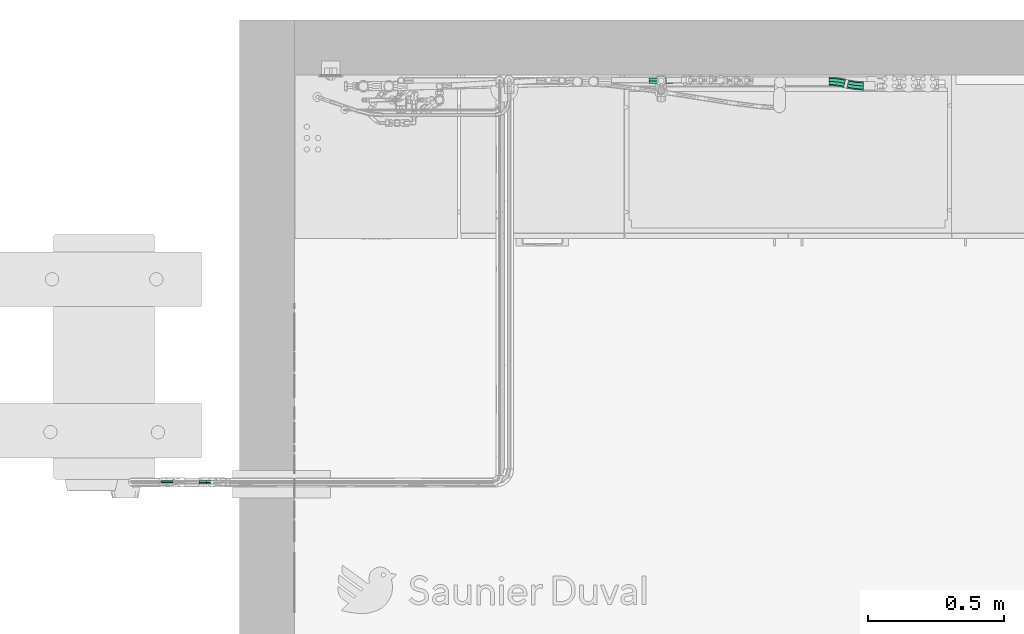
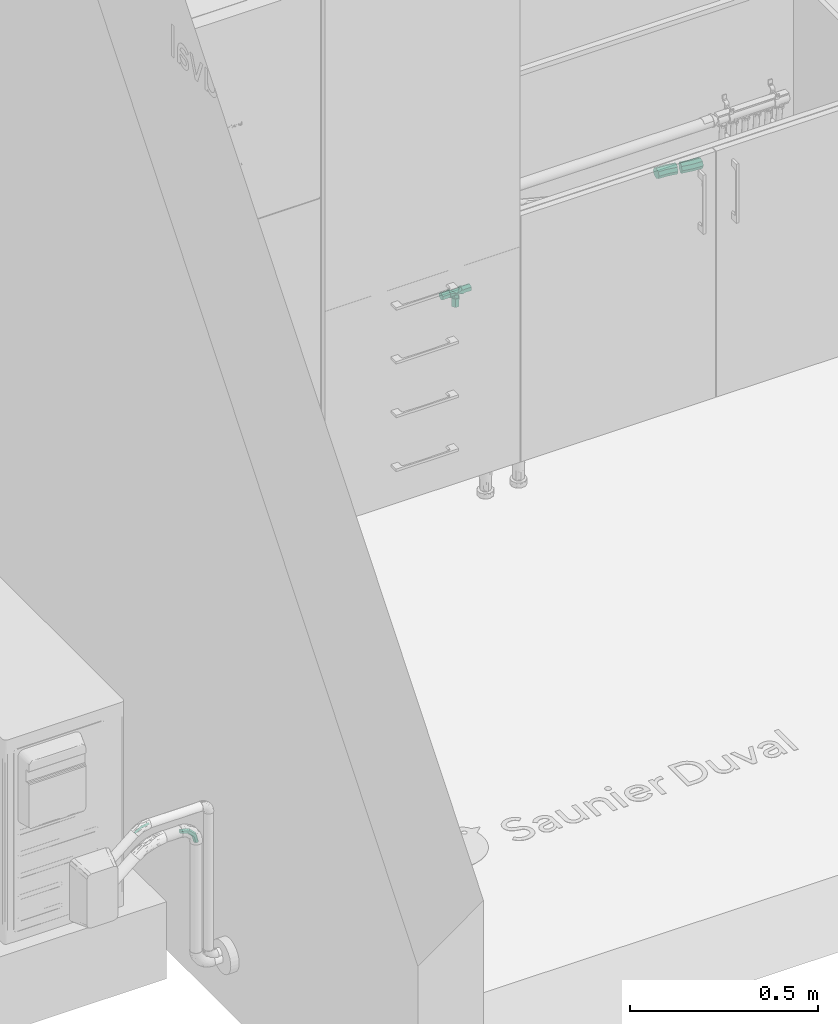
# One storey, part 26 of 30: 5 flow fittings.
"""IFC2X3 building model written with IfcOpenShell, lengths in metres."""

from ifc_helpers import new_model, entity, si_unit, converted_unit, derived_unit, direction, frame, origin, place, context, subcontext, project, spatial, faceted_brep, source, transform, mapped, material, material_list, type_object, type_shapes, element, save


model = new_model("IFC2X3")

# Units and contexts
model_context = context("Model", 3, precision=1e-05, world=origin(), true_north=direction((6.123031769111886e-17, 1.0)))
body_context = subcontext(model_context, "Body", "Model", "MODEL_VIEW")
ifc_project = project(units=[si_unit("LENGTHUNIT", "METRE"), si_unit("AREAUNIT", "SQUARE_METRE"), si_unit("VOLUMEUNIT", "CUBIC_METRE"), converted_unit("PLANEANGLEUNIT", "DEGREE", entity("IfcPlaneAngleMeasure", 0.017453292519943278), si_unit("PLANEANGLEUNIT", "RADIAN"), dimensions=[0, 0, 0, 0, 0, 0, 0]), si_unit("MASSUNIT", "GRAM", prefix="KILO"), derived_unit("MASSDENSITYUNIT", [(si_unit("MASSUNIT", "GRAM", prefix="KILO"), 1), (si_unit("LENGTHUNIT", "METRE"), -3)]), derived_unit("IONCONCENTRATIONUNIT", [(si_unit("MASSUNIT", "GRAM", prefix="KILO"), 1), (si_unit("LENGTHUNIT", "METRE"), -3)]), derived_unit("MOMENTOFINERTIAUNIT", [(si_unit("LENGTHUNIT", "METRE"), 4)]), si_unit("TIMEUNIT", "SECOND"), si_unit("FREQUENCYUNIT", "HERTZ"), si_unit("THERMODYNAMICTEMPERATUREUNIT", "DEGREE_CELSIUS"), derived_unit("THERMALTRANSMITTANCEUNIT", [(si_unit("MASSUNIT", "GRAM", prefix="KILO"), 1), (si_unit("THERMODYNAMICTEMPERATUREUNIT", "KELVIN"), -1), (si_unit("TIMEUNIT", "SECOND"), -3)]), derived_unit("THERMALCONDUCTANCEUNIT", [(si_unit("MASSUNIT", "GRAM", prefix="KILO"), 1), (si_unit("THERMODYNAMICTEMPERATUREUNIT", "KELVIN"), -1), (si_unit("TIMEUNIT", "SECOND"), -3), (si_unit("LENGTHUNIT", "METRE"), 1)]), derived_unit("VOLUMETRICFLOWRATEUNIT", [(si_unit("LENGTHUNIT", "METRE", prefix="DECI"), 3), (si_unit("TIMEUNIT", "SECOND"), -1)]), derived_unit("MASSFLOWRATEUNIT", [(si_unit("MASSUNIT", "GRAM", prefix="KILO"), 1), (si_unit("TIMEUNIT", "SECOND"), -1)]), derived_unit("ROTATIONALFREQUENCYUNIT", [(si_unit("TIMEUNIT", "SECOND"), -1)]), si_unit("ELECTRICCURRENTUNIT", "AMPERE"), si_unit("ELECTRICVOLTAGEUNIT", "VOLT"), si_unit("POWERUNIT", "WATT"), si_unit("FORCEUNIT", "NEWTON", prefix="KILO"), si_unit("ILLUMINANCEUNIT", "LUX"), si_unit("LUMINOUSFLUXUNIT", "LUMEN"), si_unit("LUMINOUSINTENSITYUNIT", "CANDELA"), si_unit("ENERGYUNIT", "JOULE"), derived_unit("USERDEFINED", [(si_unit("MASSUNIT", "GRAM", prefix="KILO"), -1), (si_unit("LENGTHUNIT", "METRE"), -2), (si_unit("TIMEUNIT", "SECOND"), 3), (si_unit("LUMINOUSFLUXUNIT", "LUMEN"), 1)]), derived_unit("USERDEFINED", [(si_unit("MASSUNIT", "GRAM", prefix="KILO"), 1), (si_unit("TIMEUNIT", "SECOND"), -3), (si_unit("LENGTHUNIT", "METRE"), 3), (si_unit("ELECTRICCURRENTUNIT", "AMPERE"), -2)]), derived_unit("SOUNDPOWERUNIT", [(si_unit("MASSUNIT", "GRAM", prefix="KILO"), 1), (si_unit("TIMEUNIT", "SECOND"), -3), (si_unit("LENGTHUNIT", "METRE"), 2)]), derived_unit("SOUNDPRESSUREUNIT", [(si_unit("MASSUNIT", "GRAM", prefix="KILO"), 1), (si_unit("LENGTHUNIT", "METRE"), -1), (si_unit("TIMEUNIT", "SECOND"), -2)]), derived_unit("LINEARVELOCITYUNIT", [(si_unit("LENGTHUNIT", "METRE"), 1), (si_unit("TIMEUNIT", "SECOND"), -1)]), si_unit("PRESSUREUNIT", "PASCAL"), derived_unit("USERDEFINED", [(si_unit("MASSUNIT", "GRAM", prefix="KILO"), 1), (si_unit("LENGTHUNIT", "METRE"), -2), (si_unit("TIMEUNIT", "SECOND"), -2)]), derived_unit("LINEARFORCEUNIT", [(si_unit("MASSUNIT", "GRAM", prefix="KILO"), 1), (si_unit("TIMEUNIT", "SECOND"), -2)]), derived_unit("PLANARFORCEUNIT", [(si_unit("MASSUNIT", "GRAM", prefix="KILO"), 1), (si_unit("LENGTHUNIT", "METRE"), -1), (si_unit("TIMEUNIT", "SECOND"), -2)]), derived_unit("SPECIFICHEATCAPACITYUNIT", [(si_unit("THERMODYNAMICTEMPERATUREUNIT", "KELVIN"), -1), (si_unit("LENGTHUNIT", "METRE"), 2), (si_unit("TIMEUNIT", "SECOND"), -2)]), derived_unit("HEATFLUXDENSITYUNIT", [(si_unit("MASSUNIT", "GRAM", prefix="KILO"), 1), (si_unit("TIMEUNIT", "SECOND"), -3)]), derived_unit("HEATINGVALUEUNIT", [(si_unit("LENGTHUNIT", "METRE"), 2), (si_unit("TIMEUNIT", "SECOND"), -2)]), derived_unit("VAPORPERMEABILITYUNIT", [(si_unit("LENGTHUNIT", "METRE"), -1), (si_unit("TIMEUNIT", "SECOND"), 1)]), derived_unit("DYNAMICVISCOSITYUNIT", [(si_unit("MASSUNIT", "GRAM", prefix="KILO"), 1), (si_unit("TIMEUNIT", "SECOND"), -1), (si_unit("LENGTHUNIT", "METRE"), -1)]), derived_unit("THERMALEXPANSIONCOEFFICIENTUNIT", [(si_unit("THERMODYNAMICTEMPERATUREUNIT", "KELVIN"), -1)]), derived_unit("MODULUSOFELASTICITYUNIT", [(si_unit("MASSUNIT", "GRAM", prefix="KILO"), 1), (si_unit("LENGTHUNIT", "METRE"), -1), (si_unit("TIMEUNIT", "SECOND"), -2)]), derived_unit("ISOTHERMALMOISTURECAPACITYUNIT", [(si_unit("MASSUNIT", "GRAM", prefix="KILO"), -1), (si_unit("LENGTHUNIT", "METRE"), 3)]), derived_unit("MOISTUREDIFFUSIVITYUNIT", [(si_unit("TIMEUNIT", "SECOND"), -1), (si_unit("LENGTHUNIT", "METRE"), 2)]), derived_unit("MASSPERLENGTHUNIT", [(si_unit("MASSUNIT", "GRAM", prefix="KILO"), 1), (si_unit("LENGTHUNIT", "METRE"), -1)]), derived_unit("THERMALRESISTANCEUNIT", [(si_unit("MASSUNIT", "GRAM", prefix="KILO"), -1), (si_unit("TIMEUNIT", "SECOND"), 3), (si_unit("THERMODYNAMICTEMPERATUREUNIT", "KELVIN"), 1)]), derived_unit("ACCELERATIONUNIT", [(si_unit("LENGTHUNIT", "METRE"), 1), (si_unit("TIMEUNIT", "SECOND"), -2)]), derived_unit("ANGULARVELOCITYUNIT", [(si_unit("TIMEUNIT", "SECOND"), -1), (si_unit("PLANEANGLEUNIT", "RADIAN"), 1)]), derived_unit("LINEARSTIFFNESSUNIT", [(si_unit("MASSUNIT", "GRAM", prefix="KILO"), 1), (si_unit("TIMEUNIT", "SECOND"), -2)]), derived_unit("WARPINGCONSTANTUNIT", [(si_unit("LENGTHUNIT", "METRE"), 6)]), derived_unit("LINEARMOMENTUNIT", [(si_unit("MASSUNIT", "GRAM", prefix="KILO"), 1), (si_unit("LENGTHUNIT", "METRE"), 1), (si_unit("TIMEUNIT", "SECOND"), -2)]), derived_unit("TORQUEUNIT", [(si_unit("MASSUNIT", "GRAM", prefix="KILO"), 1), (si_unit("LENGTHUNIT", "METRE"), 2), (si_unit("TIMEUNIT", "SECOND"), -2)])], contexts=[model_context])

# Site, building, storey
site_placement = place(None, origin())
site = spatial("IfcSite", under=ifc_project, at=site_placement, Name="Default", CompositionType="ELEMENT")
building_placement = place(site_placement, origin())
building = spatial("IfcBuilding", under=site, at=building_placement, CompositionType="ELEMENT")
storey_placement = place(building_placement, origin())
storey = spatial("IfcBuildingStorey", under=building, at=storey_placement, Name="Niveau 0", CompositionType="ELEMENT", Elevation=-1.949160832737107e-14)

# Flow fittings
ifc_material_1 = material(Name="Cuivre")
pipe_fitting_type_1 = type_object("IfcPipeFittingType", Name="Coude - tube frigo:Standard", PredefinedType="NOTDEFINED", material=ifc_material_1)
shared_shape_1 = source(origin(), body_context, "Body", "Brep", [
    faceted_brep([(-1.6923237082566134e-05, 4.6496211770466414e-05, 0.0), (-0.001453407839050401, 0.0039932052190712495, -0.004200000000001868), (0.01846167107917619, 0.015491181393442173, -0.004200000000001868), (0.02116137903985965, 0.012273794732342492, 0.0), (-0.0028898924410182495, 0.00793991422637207, 0.0), (0.0157619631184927, 0.018708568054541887, 0.0), (-0.0014534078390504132, 0.003993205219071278, 0.004199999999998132), (0.018461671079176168, 0.015491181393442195, 0.004199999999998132), (-0.0240999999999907, -0.004200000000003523, 0.0), (-0.024099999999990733, 0.0, -0.004200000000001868), (-0.024099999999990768, 0.0041999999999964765, 0.0), (-0.024099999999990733, 0.0, 0.004199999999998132)], [[[0, 1, 2, 3]], [[1, 4, 5, 2]], [[4, 6, 7, 5]], [[6, 0, 3, 7]], [[8, 9, 1, 0]], [[9, 10, 4, 1]], [[10, 11, 6, 4]], [[11, 8, 0, 6]], [[3, 2, 5, 7]], [[11, 10, 9, 8]]]),
])
type_shapes(pipe_fitting_type_1, [shared_shape_1])
flow_fitting_1_placement = place(storey_placement, frame((-21.084557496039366, 1.3770530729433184, 0.09334358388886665), z_axis=(0.0, 1.0, 0.0), x_axis=(0.7660444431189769, 0.0, 0.6427876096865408)))
element("IfcFlowFitting", 1, at=flow_fitting_1_placement, inside=storey, type_object=pipe_fitting_type_1, material=ifc_material_1, Name="Coude - tube frigo:Standard", ObjectType="Coude - tube frigo:Standard", context=body_context, shape_type="MappedRepresentation", body=[
    mapped(shared_shape_1, transform((0.0, 0.0, 0.0), scale=1.0)),
])
pipe_fitting_type_2 = type_object("IfcPipeFittingType", Name="Coude - tube frigo:Standard", PredefinedType="NOTDEFINED", material=ifc_material_1)
shared_shape_2 = source(origin(), body_context, "Body", "Brep", [
    faceted_brep([(-0.000247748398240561, 0.020977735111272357, 0.0), (-0.003430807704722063, 0.022814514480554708, -0.006365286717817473), (0.0036582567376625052, 0.049301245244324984, -0.006365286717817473), (0.007333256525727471, 0.04930249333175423, 0.0), (-0.00979692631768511, 0.026488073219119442, -0.006365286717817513), (-0.0036917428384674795, 0.0492987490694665, -0.006365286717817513), (-0.012979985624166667, 0.028324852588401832, 0.0), (-0.007366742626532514, 0.04929750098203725, 0.0), (-0.009796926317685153, 0.026488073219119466, 0.00636528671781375), (-0.0036917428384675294, 0.0492987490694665, 0.00636528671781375), (-0.0034308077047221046, 0.022814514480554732, 0.0063652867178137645), (0.003658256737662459, 0.049301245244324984, 0.0063652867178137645), (-0.02097781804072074, 0.00024062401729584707, 0.0), (-0.022815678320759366, 0.003423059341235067, -0.006365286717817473), (-0.026491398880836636, 0.009787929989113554, -0.006365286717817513), (-0.028329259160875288, 0.012970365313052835, 0.0), (-0.02649139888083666, 0.009787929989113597, 0.00636528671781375), (-0.022815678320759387, 0.003423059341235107, 0.0063652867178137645), (-0.04929999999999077, -0.007350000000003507, 0.0), (-0.0492999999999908, -0.0036750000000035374, -0.006365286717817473), (-0.049299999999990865, 0.0036749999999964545, -0.006365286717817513), (-0.04929999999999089, 0.007349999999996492, 0.0), (-0.049299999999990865, 0.0036749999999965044, 0.00636528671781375), (-0.0492999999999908, -0.0036750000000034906, 0.0063652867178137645)], [[[0, 1, 2, 3]], [[1, 4, 5, 2]], [[4, 6, 7, 5]], [[6, 8, 9, 7]], [[8, 10, 11, 9]], [[10, 0, 3, 11]], [[12, 13, 1, 0]], [[13, 14, 4, 1]], [[14, 15, 6, 4]], [[15, 16, 8, 6]], [[16, 17, 10, 8]], [[17, 12, 0, 10]], [[18, 19, 13, 12]], [[19, 20, 14, 13]], [[20, 21, 15, 14]], [[21, 22, 16, 15]], [[22, 23, 17, 16]], [[23, 18, 12, 17]], [[3, 2, 5, 7, 9, 11]], [[23, 22, 21, 20, 19, 18]]]),
])
type_shapes(pipe_fitting_type_2, [shared_shape_2])
flow_fitting_2_placement = place(storey_placement, frame((-20.916336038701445, 1.3750530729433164, 0.035702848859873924), z_axis=(0.0, 1.0, 0.0), x_axis=(0.9999999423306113, 0.0, 0.00033961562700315)))
element("IfcFlowFitting", 2, at=flow_fitting_2_placement, inside=storey, type_object=pipe_fitting_type_2, material=ifc_material_1, Name="Coude - tube frigo:Standard", ObjectType="Coude - tube frigo:Standard", context=body_context, shape_type="MappedRepresentation", body=[
    mapped(shared_shape_2, transform((0.0, 0.0, 0.0), scale=1.0)),
])
ifc_material_2 = material(Name="Bague blanche VisuControl")
ifc_material_3 = material(Name="Inox")
ifc_material_4 = material(Name="PPSU")
ifc_material_list_1 = material_list([ifc_material_2, ifc_material_3, ifc_material_4])
pipe_fitting_type_3 = type_object("IfcPipeFittingType", Name="COMAP - SKINPRESS ppsu - Té_égal_réduit_9130W_9130RW:Standard", PredefinedType="NOTDEFINED", material=ifc_material_list_1)
shared_shape_3 = source(origin(), body_context, "Body", "Brep", [
    faceted_brep([(0.016000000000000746, -0.006249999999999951, -0.010825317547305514), (0.01600000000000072, -0.012500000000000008, 0.0), (0.016000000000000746, -0.0062500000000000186, 0.010825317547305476), (0.016000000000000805, 0.006249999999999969, 0.010825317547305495), (0.016000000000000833, 0.01249999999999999, 0.0), (0.016000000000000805, 0.006250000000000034, -0.010825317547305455), (0.020000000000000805, 0.006249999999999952, 0.010825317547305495), (0.02000000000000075, -0.006250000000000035, 0.010825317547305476), (0.02000000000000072, -0.012500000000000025, 0.0), (0.02000000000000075, -0.006249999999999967, -0.010825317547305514), (0.020000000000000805, 0.006250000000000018, -0.010825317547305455), (0.020000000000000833, 0.012499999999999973, 0.0)], [[[0, 1, 2, 3, 4, 5]], [[6, 7, 8, 9, 10, 11]], [[11, 10, 5, 4]], [[10, 9, 0, 5]], [[9, 8, 1, 0]], [[8, 7, 2, 1]], [[7, 6, 3, 2]], [[6, 11, 4, 3]]]),
    faceted_brep([(0.01500000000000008, -0.005499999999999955, -0.009526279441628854), (0.015000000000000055, -0.011000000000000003, 0.0), (0.01500000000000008, -0.0055000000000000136, 0.00952627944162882), (0.015000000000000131, 0.005499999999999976, 0.009526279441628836), (0.015000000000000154, 0.010999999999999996, 0.0), (0.015000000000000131, 0.0055000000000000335, -0.009526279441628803), (0.04400000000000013, 0.005499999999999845, 0.009526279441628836), (0.04400000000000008, -0.0055000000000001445, 0.00952627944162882), (0.04400000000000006, -0.011000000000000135, 0.0), (0.04400000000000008, -0.0055000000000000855, -0.009526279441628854), (0.04400000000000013, 0.0054999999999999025, -0.009526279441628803), (0.04400000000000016, 0.010999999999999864, 0.0)], [[[0, 1, 2, 3, 4, 5]], [[6, 7, 8, 9, 10, 11]], [[11, 10, 5, 4]], [[10, 9, 0, 5]], [[9, 8, 1, 0]], [[8, 7, 2, 1]], [[7, 6, 3, 2]], [[6, 11, 4, 3]]]),
    faceted_brep([(-0.016000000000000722, 0.006250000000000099, -0.010825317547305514), (-0.01600000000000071, 0.012500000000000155, 0.0), (-0.016000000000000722, 0.006250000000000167, 0.010825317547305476), (-0.016000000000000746, -0.006249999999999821, 0.010825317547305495), (-0.016000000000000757, -0.012499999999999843, 0.0), (-0.016000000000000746, -0.006249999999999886, -0.010825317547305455), (-0.020000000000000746, -0.006249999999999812, 0.010825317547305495), (-0.020000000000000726, 0.006250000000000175, 0.010825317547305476), (-0.02000000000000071, 0.012500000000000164, 0.0), (-0.020000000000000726, 0.006250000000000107, -0.010825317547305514), (-0.020000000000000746, -0.006249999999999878, -0.010825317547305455), (-0.020000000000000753, -0.012499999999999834, 0.0)], [[[0, 1, 2, 3, 4, 5]], [[6, 7, 8, 9, 10, 11]], [[11, 10, 5, 4]], [[10, 9, 0, 5]], [[9, 8, 1, 0]], [[8, 7, 2, 1]], [[7, 6, 3, 2]], [[6, 11, 4, 3]]]),
    faceted_brep([(-0.015000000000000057, 0.005500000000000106, -0.009526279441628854), (-0.015000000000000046, 0.011000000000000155, 0.0), (-0.015000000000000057, 0.005500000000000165, 0.00952627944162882), (-0.015000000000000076, -0.0054999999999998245, 0.009526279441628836), (-0.015000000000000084, -0.010999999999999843, 0.0), (-0.015000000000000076, -0.005499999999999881, -0.009526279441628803), (-0.044000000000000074, -0.005499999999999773, 0.009526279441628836), (-0.04400000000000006, 0.0055000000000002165, 0.00952627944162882), (-0.044000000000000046, 0.011000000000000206, 0.0), (-0.04400000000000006, 0.0055000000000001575, -0.009526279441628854), (-0.044000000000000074, -0.0054999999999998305, -0.009526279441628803), (-0.04400000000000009, -0.010999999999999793, 0.0)], [[[0, 1, 2, 3, 4, 5]], [[6, 7, 8, 9, 10, 11]], [[11, 10, 5, 4]], [[10, 9, 0, 5]], [[9, 8, 1, 0]], [[8, 7, 2, 1]], [[7, 6, 3, 2]], [[6, 11, 4, 3]]]),
    faceted_brep([(0.0062499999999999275, 0.01600000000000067, -0.010825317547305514), (0.012499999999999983, 0.01600000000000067, 0.0), (0.006249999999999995, 0.01600000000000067, 0.010825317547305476), (-0.006249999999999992, 0.01600000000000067, 0.010825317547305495), (-0.012500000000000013, 0.01600000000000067, 0.0), (-0.006250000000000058, 0.01600000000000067, -0.010825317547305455), (-0.006249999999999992, 0.02000000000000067, 0.010825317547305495), (0.006249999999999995, 0.02000000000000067, 0.010825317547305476), (0.012499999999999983, 0.02000000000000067, 0.0), (0.0062499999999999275, 0.02000000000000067, -0.010825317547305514), (-0.006250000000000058, 0.02000000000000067, -0.010825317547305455), (-0.012500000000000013, 0.02000000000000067, 0.0)], [[[0, 1, 2, 3, 4, 5]], [[6, 7, 8, 9, 10, 11]], [[11, 10, 5, 4]], [[10, 9, 0, 5]], [[9, 8, 1, 0]], [[8, 7, 2, 1]], [[7, 6, 3, 2]], [[6, 11, 4, 3]]]),
    faceted_brep([(0.0054999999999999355, 0.014999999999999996, -0.009526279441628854), (0.010999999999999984, 0.014999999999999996, 0.0), (0.0054999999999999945, 0.014999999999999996, 0.00952627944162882), (-0.005499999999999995, 0.014999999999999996, 0.009526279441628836), (-0.011000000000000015, 0.014999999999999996, 0.0), (-0.005500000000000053, 0.014999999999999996, -0.009526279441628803), (-0.005499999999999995, 0.044, 0.009526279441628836), (0.0054999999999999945, 0.044, 0.00952627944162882), (0.010999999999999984, 0.044, 0.0), (0.0054999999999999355, 0.044, -0.009526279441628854), (-0.005500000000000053, 0.044, -0.009526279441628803), (-0.011000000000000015, 0.044, 0.0)], [[[0, 1, 2, 3, 4, 5]], [[6, 7, 8, 9, 10, 11]], [[11, 10, 5, 4]], [[10, 9, 0, 5]], [[9, 8, 1, 0]], [[8, 7, 2, 1]], [[7, 6, 3, 2]], [[6, 11, 4, 3]]]),
    faceted_brep([(-0.01, 0.015, 0.0), (-0.004999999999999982, 0.015, 0.008660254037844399), (0.00500000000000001, 0.015, 0.008660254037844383), (0.01, 0.015, 0.0), (0.004999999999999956, 0.015, -0.00866025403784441), (-0.005000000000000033, 0.015, -0.008660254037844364), (-0.01, 0.01, 0.0), (-0.007257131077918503, 0.007257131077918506, -0.006879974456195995), (0.01, 0.01, 0.0), (0.0, 0.0, -0.009999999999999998), (0.005605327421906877, 0.005605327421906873, -0.008281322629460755), (0.007257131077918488, 0.007257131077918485, 0.006879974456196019), (0.0, 0.0, 0.010000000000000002), (-0.005605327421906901, 0.005605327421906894, 0.008281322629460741), (0.015, -0.005000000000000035, -0.008660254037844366), (0.015, 0.004999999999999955, -0.008660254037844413), (0.015, 0.01, 0.0), (0.015, 0.005000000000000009, 0.008660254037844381), (0.015, -0.004999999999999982, 0.008660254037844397), (0.015, -0.01, 0.0), (-0.015, -0.004999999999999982, 0.008660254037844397), (-0.015, 0.005000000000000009, 0.008660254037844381), (-0.015, 0.01, 0.0), (-0.015, 0.004999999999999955, -0.008660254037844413), (-0.015, -0.005000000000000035, -0.008660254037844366), (-0.015, -0.01, 0.0)], [[[0, 1, 2, 3, 4, 5]], [[0, 5, 6]], [[7, 6, 5]], [[5, 4, 7]], [[4, 3, 8]], [[9, 7, 10]], [[8, 10, 4]], [[10, 7, 4]], [[3, 2, 8]], [[11, 8, 2]], [[2, 1, 11]], [[1, 0, 6]], [[12, 11, 13]], [[6, 13, 1]], [[13, 11, 1]], [[14, 15, 16, 17, 18, 19]], [[20, 21, 22, 23, 24, 25]], [[25, 24, 9]], [[9, 24, 23]], [[25, 9, 19]], [[9, 14, 19]], [[15, 14, 10]], [[14, 9, 10]], [[7, 23, 22]], [[7, 22, 6]], [[16, 15, 8]], [[8, 15, 10]], [[7, 9, 23]], [[6, 21, 13]], [[21, 6, 22]], [[16, 8, 11]], [[16, 11, 17]], [[13, 20, 12]], [[12, 20, 25]], [[17, 12, 18]], [[17, 11, 12]], [[19, 18, 12]], [[12, 25, 19]], [[13, 21, 20]]]),
])
type_shapes(pipe_fitting_type_3, [shared_shape_3])
flow_fitting_3_placement = place(storey_placement, frame((-19.271248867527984, 2.846796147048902, 0.29999999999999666), z_axis=(0.0, 1.0, 0.0), x_axis=(1.0, 0.0, 0.0)))
element("IfcFlowFitting", 3, at=flow_fitting_3_placement, inside=storey, type_object=pipe_fitting_type_3, material=ifc_material_list_1, Name="COMAP - SKINPRESS ppsu - Té_égal_réduit_9130W_9130RW:Standard", ObjectType="COMAP - SKINPRESS ppsu - Té_égal_réduit_9130W_9130RW:Standard", context=body_context, shape_type="MappedRepresentation", body=[
    mapped(shared_shape_3, transform((0.0, 0.0, 0.0), scale=1.0)),
])
ifc_material_5 = material(Name="Comap")
ifc_material_6 = material(Name="<Unnamed>")
ifc_material_list_2 = material_list([ifc_material_5, ifc_material_6])
pipe_fitting_type_4 = type_object("IfcPipeFittingType", Name="COMAP - MULTISKIN - Coude Cintre:Standard", PredefinedType="NOTDEFINED", material=ifc_material_list_2)
shared_shape_4 = source(origin(), body_context, "Body", "Brep", [
    faceted_brep([(0.0017275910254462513, -0.0140997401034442, 0.0), (0.0011576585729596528, -0.009448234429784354, -0.011313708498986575), (0.03126791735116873, -0.0038795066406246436, -0.011313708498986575), (0.03239932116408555, -0.008427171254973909, 0.0), (-0.0002182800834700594, 0.0017814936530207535, -0.016000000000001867), (0.028536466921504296, 0.007099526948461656, -0.016000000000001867), (-0.0015942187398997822, 0.01301122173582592, -0.011313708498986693), (0.02580501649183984, 0.018078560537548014, -0.011313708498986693), (-0.0021641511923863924, 0.017662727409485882, 0.0), (0.024673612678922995, 0.02262622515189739, 0.0), (-0.0015942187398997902, 0.013011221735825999, 0.011313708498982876), (0.025805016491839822, 0.01807856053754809, 0.011313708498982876), (-0.00021828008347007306, 0.0017814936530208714, 0.015999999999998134), (0.028536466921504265, 0.007099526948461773, 0.015999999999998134), (0.0011576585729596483, -0.009448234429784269, 0.011313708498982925), (0.03126791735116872, -0.0038795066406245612, 0.011313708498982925), (-0.02940634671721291, -0.01600000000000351, 0.0), (-0.02940634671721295, -0.011313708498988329, -0.011313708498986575), (-0.029406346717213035, 0.0, -0.016000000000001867), (-0.029406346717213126, 0.011313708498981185, -0.011313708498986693), (-0.02940634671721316, 0.015999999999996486, 0.0), (-0.029406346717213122, 0.011313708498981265, 0.011313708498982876), (-0.029406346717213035, 0.0, 0.015999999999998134), (-0.02940634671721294, -0.011313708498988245, 0.011313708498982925)], [[[0, 1, 2, 3]], [[1, 4, 5, 2]], [[4, 6, 7, 5]], [[6, 8, 9, 7]], [[8, 10, 11, 9]], [[10, 12, 13, 11]], [[12, 14, 15, 13]], [[14, 0, 3, 15]], [[16, 17, 1, 0]], [[17, 18, 4, 1]], [[18, 19, 6, 4]], [[19, 20, 8, 6]], [[20, 21, 10, 8]], [[21, 22, 12, 10]], [[22, 23, 14, 12]], [[23, 16, 0, 14]], [[3, 2, 5, 7, 9, 11, 13, 15]], [[23, 22, 21, 20, 19, 18, 17, 16]]]),
    faceted_brep([(0.0017275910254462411, -0.014099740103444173, 0.0), (0.001157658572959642, -0.009448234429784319, -0.011313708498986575), (0.03126791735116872, -0.003879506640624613, -0.011313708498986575), (0.03239932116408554, -0.00842717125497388, 0.0), (-0.0002182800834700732, 0.0017814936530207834, -0.016000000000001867), (0.02853646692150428, 0.007099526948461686, -0.016000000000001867), (-0.0015942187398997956, 0.013011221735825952, -0.011313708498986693), (0.025805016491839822, 0.018078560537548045, -0.011313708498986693), (-0.0021641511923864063, 0.017662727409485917, 0.0), (0.024673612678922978, 0.02262622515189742, 0.0), (-0.001594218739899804, 0.013011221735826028, 0.011313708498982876), (0.025805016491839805, 0.01807856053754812, 0.011313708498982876), (-0.0002182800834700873, 0.001781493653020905, 0.015999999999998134), (0.028536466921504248, 0.007099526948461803, 0.015999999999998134), (0.0011576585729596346, -0.009448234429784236, 0.011313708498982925), (0.0312679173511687, -0.0038795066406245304, 0.011313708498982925), (-0.029406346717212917, -0.016000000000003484, 0.0), (-0.029406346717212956, -0.011313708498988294, -0.011313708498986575), (-0.029406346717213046, 0.0, -0.016000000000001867), (-0.029406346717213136, 0.01131370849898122, -0.011313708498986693), (-0.02940634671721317, 0.01599999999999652, 0.0), (-0.029406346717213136, 0.011313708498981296, 0.011313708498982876), (-0.029406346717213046, 0.0, 0.015999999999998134), (-0.029406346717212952, -0.01131370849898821, 0.011313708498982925)], [[[0, 1, 2, 3]], [[1, 4, 5, 2]], [[4, 6, 7, 5]], [[6, 8, 9, 7]], [[8, 10, 11, 9]], [[10, 12, 13, 11]], [[12, 14, 15, 13]], [[14, 0, 3, 15]], [[16, 17, 1, 0]], [[17, 18, 4, 1]], [[18, 19, 6, 4]], [[19, 20, 8, 6]], [[20, 21, 10, 8]], [[21, 22, 12, 10]], [[22, 23, 14, 12]], [[23, 16, 0, 14]], [[3, 2, 5, 7, 9, 11, 13, 15]], [[23, 22, 21, 20, 19, 18, 17, 16]]]),
])
type_shapes(pipe_fitting_type_4, [shared_shape_4])
flow_fitting_4_placement = place(storey_placement, frame((-18.55940501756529, 2.8277041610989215, 0.4705625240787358), z_axis=(0.0, 0.0, 1.0), x_axis=(0.970418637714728, -0.24142839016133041, 0.0)))
element("IfcFlowFitting", 4, at=flow_fitting_4_placement, inside=storey, type_object=pipe_fitting_type_4, material=ifc_material_list_2, Name="COMAP - MULTISKIN - Coude Cintre:Standard", ObjectType="COMAP - MULTISKIN - Coude Cintre:Standard", context=body_context, shape_type="MappedRepresentation", body=[
    mapped(shared_shape_4, transform((0.0, 0.0, 0.0), scale=1.0)),
])
pipe_fitting_type_5 = type_object("IfcPipeFittingType", Name="COMAP - MULTISKIN - Coude Cintre:Standard", PredefinedType="NOTDEFINED", material=ifc_material_list_2)
shared_shape_5 = source(origin(), body_context, "Body", "Brep", [
    faceted_brep([(0.0017336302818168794, -0.014081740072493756, 0.0), (0.0011610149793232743, -0.009430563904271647, -0.011313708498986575), (0.03140869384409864, -0.0038093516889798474, -0.011313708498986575), (0.032545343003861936, -0.008355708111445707, 0.0), (-0.00022140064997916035, 0.0017983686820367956, -0.016000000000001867), (0.02866458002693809, 0.0071665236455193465, -0.016000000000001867), (-0.001603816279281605, 0.013027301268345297, -0.011313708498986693), (0.025920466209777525, 0.018142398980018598, -0.011313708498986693), (-0.002176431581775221, 0.01767847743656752, 0.0), (0.024783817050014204, 0.02268875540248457, 0.0), (-0.001603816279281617, 0.013027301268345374, 0.011313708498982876), (0.025920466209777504, 0.018142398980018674, 0.011313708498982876), (-0.00022140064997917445, 0.0017983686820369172, 0.015999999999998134), (0.02866458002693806, 0.007166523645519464, 0.015999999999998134), (0.0011610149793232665, -0.009430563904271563, 0.011313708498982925), (0.03140869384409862, -0.003809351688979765, 0.011313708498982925), (-0.029546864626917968, -0.016000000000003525, 0.0), (-0.029546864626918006, -0.011313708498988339, -0.011313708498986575), (-0.029546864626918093, 0.0, -0.016000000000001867), (-0.02954686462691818, 0.011313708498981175, -0.011313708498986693), (-0.029546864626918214, 0.015999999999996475, 0.0), (-0.029546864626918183, 0.01131370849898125, 0.011313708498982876), (-0.029546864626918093, 0.0, 0.015999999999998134), (-0.029546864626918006, -0.011313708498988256, 0.011313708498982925)], [[[0, 1, 2, 3]], [[1, 4, 5, 2]], [[4, 6, 7, 5]], [[6, 8, 9, 7]], [[8, 10, 11, 9]], [[10, 12, 13, 11]], [[12, 14, 15, 13]], [[14, 0, 3, 15]], [[16, 17, 1, 0]], [[17, 18, 4, 1]], [[18, 19, 6, 4]], [[19, 20, 8, 6]], [[20, 21, 10, 8]], [[21, 22, 12, 10]], [[22, 23, 14, 12]], [[23, 16, 0, 14]], [[3, 2, 5, 7, 9, 11, 13, 15]], [[23, 22, 21, 20, 19, 18, 17, 16]]]),
    faceted_brep([(0.0017336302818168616, -0.014081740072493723, 0.0), (0.0011610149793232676, -0.009430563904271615, -0.011313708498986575), (0.031408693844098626, -0.0038093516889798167, -0.011313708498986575), (0.032545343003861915, -0.008355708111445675, 0.0), (-0.00022140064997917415, 0.0017983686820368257, -0.016000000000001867), (0.028664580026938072, 0.007166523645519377, -0.016000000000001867), (-0.0016038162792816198, 0.013027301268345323, -0.011313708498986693), (0.025920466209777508, 0.018142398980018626, -0.011313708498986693), (-0.0021764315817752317, 0.01767847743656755, 0.0), (0.024783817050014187, 0.0226887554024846, 0.0), (-0.0016038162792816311, 0.013027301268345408, 0.011313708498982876), (0.025920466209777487, 0.018142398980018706, 0.011313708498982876), (-0.00022140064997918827, 0.0017983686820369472, 0.015999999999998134), (0.028664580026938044, 0.007166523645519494, 0.015999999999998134), (0.0011610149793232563, -0.009430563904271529, 0.011313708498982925), (0.031408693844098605, -0.0038093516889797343, 0.011313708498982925), (-0.029546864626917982, -0.01600000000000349, 0.0), (-0.02954686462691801, -0.011313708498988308, -0.011313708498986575), (-0.029546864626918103, 0.0, -0.016000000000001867), (-0.02954686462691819, 0.011313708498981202, -0.011313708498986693), (-0.02954686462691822, 0.015999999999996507, 0.0), (-0.02954686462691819, 0.011313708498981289, 0.011313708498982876), (-0.0295468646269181, 0.0, 0.015999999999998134), (-0.02954686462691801, -0.011313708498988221, 0.011313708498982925)], [[[0, 1, 2, 3]], [[1, 4, 5, 2]], [[4, 6, 7, 5]], [[6, 8, 9, 7]], [[8, 10, 11, 9]], [[10, 12, 13, 11]], [[12, 14, 15, 13]], [[14, 0, 3, 15]], [[16, 17, 1, 0]], [[17, 18, 4, 1]], [[18, 19, 6, 4]], [[19, 20, 8, 6]], [[20, 21, 10, 8]], [[21, 22, 12, 10]], [[22, 23, 14, 12]], [[23, 16, 0, 14]], [[3, 2, 5, 7, 9, 11, 13, 15]], [[23, 22, 21, 20, 19, 18, 17, 16]]]),
])
type_shapes(pipe_fitting_type_5, [shared_shape_5])
flow_fitting_5_placement = place(storey_placement, frame((-18.627185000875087, 2.8445669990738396, 0.4705625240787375), z_axis=(0.0, 0.0, 1.0), x_axis=(-0.970418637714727, 0.24142839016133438, 0.0)))
element("IfcFlowFitting", 5, at=flow_fitting_5_placement, inside=storey, type_object=pipe_fitting_type_5, material=ifc_material_list_2, Name="COMAP - MULTISKIN - Coude Cintre:Standard", ObjectType="COMAP - MULTISKIN - Coude Cintre:Standard", context=body_context, shape_type="MappedRepresentation", body=[
    mapped(shared_shape_5, transform((0.0, 0.0, 0.0), scale=1.0)),
])

save(model, "model.ifc")
